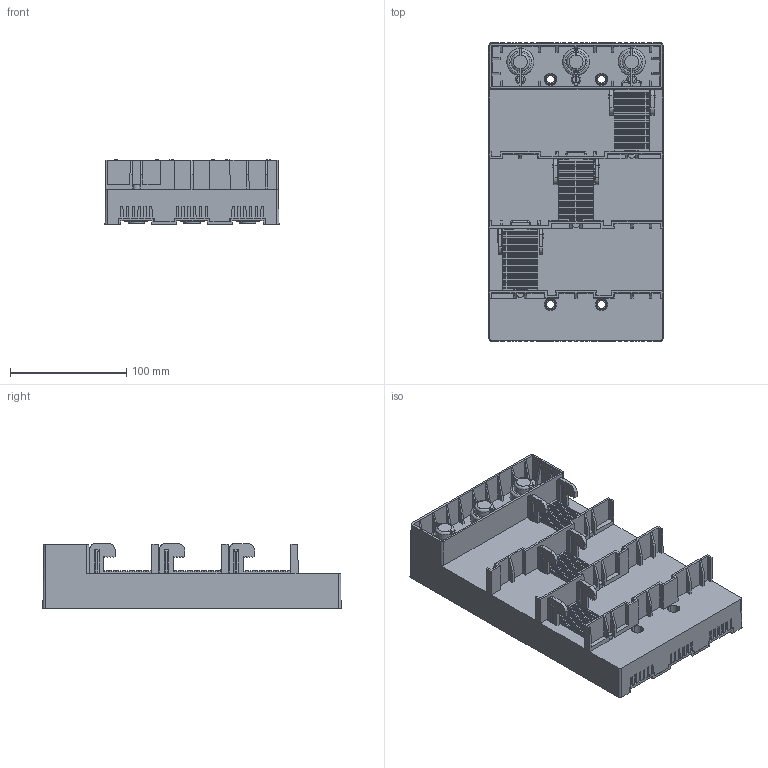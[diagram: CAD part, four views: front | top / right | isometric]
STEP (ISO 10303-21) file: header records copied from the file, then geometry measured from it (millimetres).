
FILE_DESCRIPTION (( 'STEP AP203' ), '1' );
FILE_NAME ('55004.STEP', '2021-08-27T00:38:29', ( '' ), ( '' ), 'SwSTEP 2.0', 'SolidWorks 2017', '' );
FILE_SCHEMA (( 'CONFIG_CONTROL_DESIGN' ));
Products named in the file (2): 55004
Bounding box: 150.01 x 257.01 x 55.9 mm (x, y, z)
Volume: 1149108.4 mm3; surface area: 215741.6 mm2
Topology: 4 solids, 69 shells, 2474 faces, 6616 edges, 4356 vertices
Faces by surface type: plane 1887, cylinder 324, bspline 162, cone 101
Full cylindrical faces by diameter (mm): 3.2 x3, 3.3 x3, 6.5 x4, 8.376 x3, 10 x8, 10.5 x3, 11.3 x4, 12 x3, 12.825 x9, 13 x4, 19 x6
Entity records: 86294 total; most frequent: CARTESIAN_POINT 27289, ORIENTED_EDGE 12882, DIRECTION 10743, EDGE_CURVE 6441, LINE 4973, VECTOR 4973, VERTEX_POINT 4310, AXIS2_PLACEMENT_3D 2885
